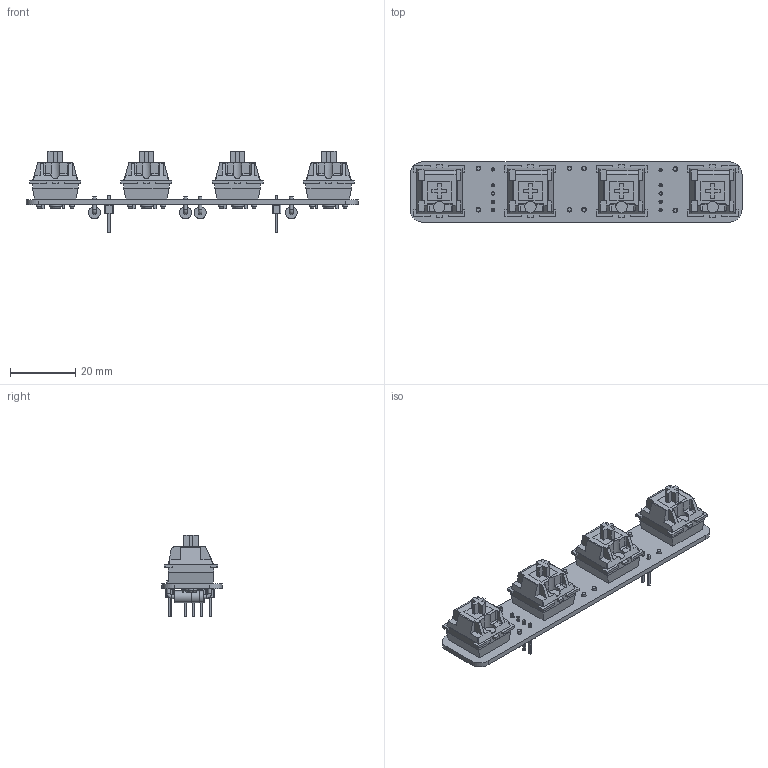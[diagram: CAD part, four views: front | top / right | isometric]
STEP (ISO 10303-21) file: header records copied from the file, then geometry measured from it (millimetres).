
FILE_DESCRIPTION(('KiCad electronic assembly'),'2;1');
FILE_NAME('KeyboardBig.step','2026-03-10T11:28:32',('Pcbnew'),('Kicad'), 'Open CASCADE STEP processor 7.9','KiCad to STEP converter','Unknown' );
FILE_SCHEMA(('AUTOMOTIVE_DESIGN { 1 0 10303 214 1 1 1 1 }'));
Length unit declared in the file: millimetre
Products named in the file (8): KeyboardBig 1; switch; Component1; Component2; D_5W_P12.70mm_Horizontal; PinHeader_1x04_P2.54mm_Vertical; PinHeader_1x01_P2.54mm_Vertical; KeyboardBig_PCB
Assembly tree (15 placements, depth 3):
  KeyboardBig 1
    switch  x4
      Component1
      Component2
    D_5W_P12.70mm_Horizontal  x4
    PinHeader_1x04_P2.54mm_Vertical  x2
    PinHeader_1x01_P2.54mm_Vertical  x2
    KeyboardBig_PCB
Bounding box: 102 x 18.5 x 25.15 mm (x, y, z)
Volume: 10297.9 mm3; surface area: 12322.8 mm2
Topology: 41 solids, 41 shells, 880 faces, 2114 edges, 1360 vertices
Faces by surface type: plane 706, cylinder 146, cone 12, sphere 8, torus 8
Full cylindrical faces by diameter (mm): 1 x10, 1.1 x16, 1.4 x8, 1.5 x8, 1.6 x8, 1.75 x8, 3.7 x8, 3.72 x4, 3.85 x4, 4 x4
Entity records: 10690 total; most frequent: CARTESIAN_POINT 1646, DIRECTION 1590, ORIENTED_EDGE 1566, EDGE_CURVE 783, LINE 632, VECTOR 632, VERTEX_POINT 503, AXIS2_PLACEMENT_3D 479
